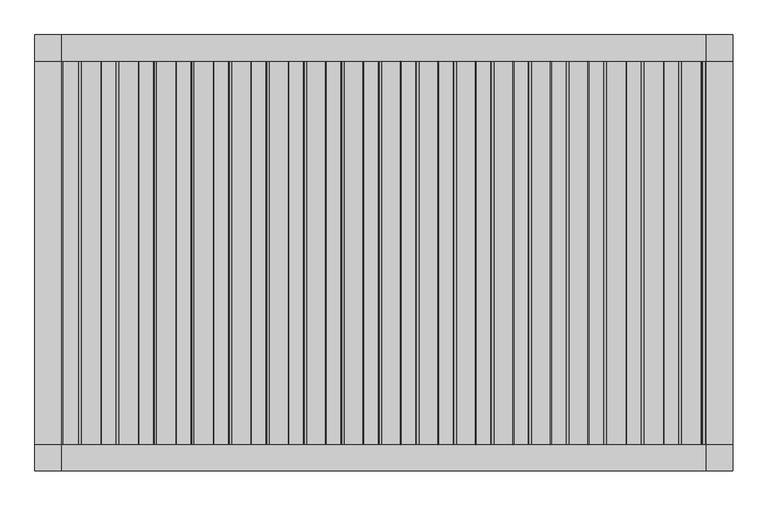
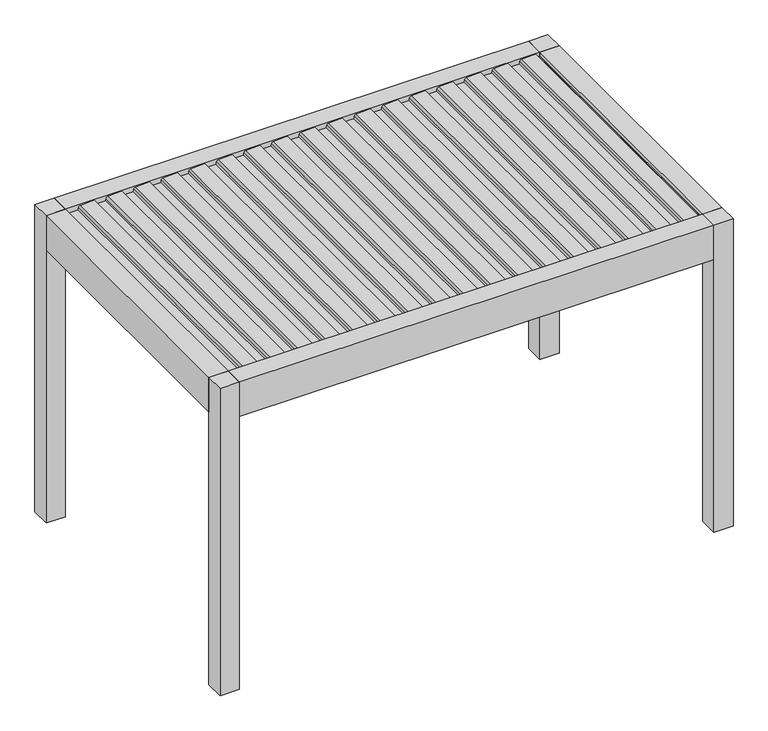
"""IFC4 building model written with IfcOpenShell, lengths in millimetres: proxy geometry, Renson_Amani_Patio_Cover : Renson_Amani_Patio_Cover."""

from ifc_helpers import new_model, si_unit, point, frame, frame_2d, origin, origin_with_axes, place, context, project, spatial, polyline, circle_curve, trimmed, segment, composite_curve, outline, extrude, source, transform, mapped, element, save


def generic_models_e44263f4(model_context):
    return source(origin(), model_context, "Body", "SweptSolid", [
        extrude(outline(composite_curve([segment(polyline([(2483.35, 1573.7338351), (2511.01198, 1576.1539448), (2512.3970364, 1604.9891952), (2531.8911096, 1601.5518641), (2526.6075693, 1491.5547493)]), True, "CONTINUOUS"), segment(trimmed(circle_curve(frame_2d((2511.6248435, 1492.2744212)), 15.0), [point((2526.6075693, 1491.5547493))], [point((2514.2295662, 1477.5023049))], False, "CARTESIAN"), True, "CONTINUOUS"), segment(polyline([(2514.2295662, 1477.5023049), (2495.0, 1474.1116136), (2495.0, 1386.3758376), (2512.0788237, 1383.3643801), (2511.3450182, 1368.0874097), (2483.35, 1365.6381629), (2483.35, 1573.7338351)]), True, "CONTINUOUS")], self_intersect=False)), frame((0.0, -1100.0, 0.0), z_axis=(0.0, 1.0, 0.0), x_axis=(0.0, 0.0, 1.0)), (0.0, 0.0, 1.0), 2200.0),
        extrude(outline(composite_curve([segment(polyline([(2483.35, 1358.7230303), (2511.01198, 1361.14314), (2512.3970364, 1389.9783904), (2531.8911096, 1386.5410594), (2526.6075693, 1276.5439445)]), True, "CONTINUOUS"), segment(trimmed(circle_curve(frame_2d((2511.6248435, 1277.2636164)), 15.0), [point((2526.6075693, 1276.5439445))], [point((2514.2295662, 1262.4915001))], False, "CARTESIAN"), True, "CONTINUOUS"), segment(polyline([(2514.2295662, 1262.4915001), (2495.0, 1259.1008088), (2495.0, 1171.3650328), (2512.0788237, 1168.3535754), (2511.3450182, 1153.0766049), (2483.35, 1150.6273582), (2483.35, 1358.7230303)]), True, "CONTINUOUS")], self_intersect=False)), frame((0.0, -1100.0, 0.0), z_axis=(0.0, 1.0, 0.0), x_axis=(0.0, 0.0, 1.0)), (0.0, 0.0, 1.0), 2200.0),
        extrude(outline(composite_curve([segment(polyline([(2483.35, 1143.7122255), (2511.01198, 1146.1323352), (2512.3970364, 1174.9675857), (2531.8911096, 1171.5302546), (2526.6075693, 1061.5331397)]), True, "CONTINUOUS"), segment(trimmed(circle_curve(frame_2d((2511.6248435, 1062.2528117)), 15.0), [point((2526.6075693, 1061.5331397))], [point((2514.2295662, 1047.4806954))], False, "CARTESIAN"), True, "CONTINUOUS"), segment(polyline([(2514.2295662, 1047.4806954), (2495.0, 1044.090004), (2495.0, 956.354228), (2512.0788237, 953.3427706), (2511.3450182, 938.0658001), (2483.35, 935.6165534), (2483.35, 1143.7122255)]), True, "CONTINUOUS")], self_intersect=False)), frame((0.0, -1100.0, 0.0), z_axis=(0.0, 1.0, 0.0), x_axis=(0.0, 0.0, 1.0)), (0.0, 0.0, 1.0), 2200.0),
        extrude(outline(composite_curve([segment(polyline([(2483.35, 928.7014208), (2511.01198, 931.1215304), (2512.3970364, 959.9567809), (2531.8911096, 956.5194498), (2526.6075693, 846.5223349)]), True, "CONTINUOUS"), segment(trimmed(circle_curve(frame_2d((2511.6248435, 847.2420069)), 15.0), [point((2526.6075693, 846.5223349))], [point((2514.2295662, 832.4698906))], False, "CARTESIAN"), True, "CONTINUOUS"), segment(polyline([(2514.2295662, 832.4698906), (2495.0, 829.0791992), (2495.0, 741.3434232), (2512.0788237, 738.3319658), (2511.3450182, 723.0549953), (2483.35, 720.6057486), (2483.35, 928.7014208)]), True, "CONTINUOUS")], self_intersect=False)), frame((0.0, -1100.0, 0.0), z_axis=(0.0, 1.0, 0.0), x_axis=(0.0, 0.0, 1.0)), (0.0, 0.0, 1.0), 2200.0),
        extrude(outline(composite_curve([segment(polyline([(2483.35, 713.690616), (2511.01198, 716.1107256), (2512.3970364, 744.9459761), (2531.8911096, 741.508645), (2526.6075693, 631.5115302)]), True, "CONTINUOUS"), segment(trimmed(circle_curve(frame_2d((2511.6248435, 632.2312021)), 15.0), [point((2526.6075693, 631.5115302))], [point((2514.2295662, 617.4590858))], False, "CARTESIAN"), True, "CONTINUOUS"), segment(polyline([(2514.2295662, 617.4590858), (2495.0, 614.0683945), (2495.0, 526.3326184), (2512.0788237, 523.321161), (2511.3450182, 508.0441905), (2483.35, 505.5949438), (2483.35, 713.690616)]), True, "CONTINUOUS")], self_intersect=False)), frame((0.0, -1100.0, 0.0), z_axis=(0.0, 1.0, 0.0), x_axis=(0.0, 0.0, 1.0)), (0.0, 0.0, 1.0), 2200.0),
        extrude(outline(composite_curve([segment(polyline([(2483.35, 498.6798112), (2511.01198, 501.0999209), (2512.3970364, 529.9351713), (2531.8911096, 526.4978402), (2526.6075693, 416.5007254)]), True, "CONTINUOUS"), segment(trimmed(circle_curve(frame_2d((2511.6248435, 417.2203973)), 15.0), [point((2526.6075693, 416.5007254))], [point((2514.2295662, 402.448281))], False, "CARTESIAN"), True, "CONTINUOUS"), segment(polyline([(2514.2295662, 402.448281), (2495.0, 399.0575897), (2495.0, 311.3218136), (2512.0788237, 308.3103562), (2511.3450182, 293.0333858), (2483.35, 290.584139), (2483.35, 498.6798112)]), True, "CONTINUOUS")], self_intersect=False)), frame((0.0, -1100.0, 0.0), z_axis=(0.0, 1.0, 0.0), x_axis=(0.0, 0.0, 1.0)), (0.0, 0.0, 1.0), 2200.0),
        extrude(outline(composite_curve([segment(polyline([(2483.35, 283.6690064), (2511.01198, 286.0891161), (2512.3970364, 314.9243665), (2531.8911096, 311.4870355), (2526.6075693, 201.4899206)]), True, "CONTINUOUS"), segment(trimmed(circle_curve(frame_2d((2511.6248435, 202.2095925)), 15.0), [point((2526.6075693, 201.4899206))], [point((2514.2295662, 187.4374762))], False, "CARTESIAN"), True, "CONTINUOUS"), segment(polyline([(2514.2295662, 187.4374762), (2495.0, 184.0467849), (2495.0, 96.3110089), (2512.0788237, 93.2995515), (2511.3450182, 78.022581), (2483.35, 75.5733343), (2483.35, 283.6690064)]), True, "CONTINUOUS")], self_intersect=False)), frame((0.0, -1100.0, 0.0), z_axis=(0.0, 1.0, 0.0), x_axis=(0.0, 0.0, 1.0)), (0.0, 0.0, 1.0), 2200.0),
        extrude(outline(composite_curve([segment(polyline([(2483.35, 68.6582016), (2511.01198, 71.0783113), (2512.3970364, 99.9135617), (2531.8911096, 96.4762307), (2526.6075693, -13.5208842)]), True, "CONTINUOUS"), segment(trimmed(circle_curve(frame_2d((2511.6248435, -12.8012122)), 15.0), [point((2526.6075693, -13.5208842))], [point((2514.2295662, -27.5733285))], False, "CARTESIAN"), True, "CONTINUOUS"), segment(polyline([(2514.2295662, -27.5733285), (2495.0, -30.9640199), (2495.0, -118.6997959), (2512.0788237, -121.7112533), (2511.3450182, -136.9882238), (2483.35, -139.4374705), (2483.35, 68.6582016)]), True, "CONTINUOUS")], self_intersect=False)), frame((0.0, -1100.0, 0.0), z_axis=(0.0, 1.0, 0.0), x_axis=(0.0, 0.0, 1.0)), (0.0, 0.0, 1.0), 2200.0),
        extrude(outline(composite_curve([segment(polyline([(2483.35, -146.3526032), (2511.01198, -143.9324935), (2512.3970364, -115.097243), (2531.8911096, -118.5345741), (2526.6075693, -228.531689)]), True, "CONTINUOUS"), segment(trimmed(circle_curve(frame_2d((2511.6248435, -227.812017)), 15.0), [point((2526.6075693, -228.531689))], [point((2514.2295662, -242.5841333))], False, "CARTESIAN"), True, "CONTINUOUS"), segment(polyline([(2514.2295662, -242.5841333), (2495.0, -245.9748247), (2495.0, -333.7106007), (2512.0788237, -336.7220581), (2511.3450182, -351.9990286), (2483.35, -354.4482753), (2483.35, -146.3526032)]), True, "CONTINUOUS")], self_intersect=False)), frame((0.0, -1100.0, 0.0), z_axis=(0.0, 1.0, 0.0), x_axis=(0.0, 0.0, 1.0)), (0.0, 0.0, 1.0), 2200.0),
        extrude(outline(composite_curve([segment(polyline([(2483.35, -361.3634079), (2511.01198, -358.9432983), (2512.3970364, -330.1080478), (2531.8911096, -333.5453789), (2526.6075693, -443.5424937)]), True, "CONTINUOUS"), segment(trimmed(circle_curve(frame_2d((2511.6248435, -442.8228218)), 15.0), [point((2526.6075693, -443.5424937))], [point((2514.2295662, -457.5949381))], False, "CARTESIAN"), True, "CONTINUOUS"), segment(polyline([(2514.2295662, -457.5949381), (2495.0, -460.9856294), (2495.0, -548.7214055), (2512.0788237, -551.7328629), (2511.3450182, -567.0098334), (2483.35, -569.4590801), (2483.35, -361.3634079)]), True, "CONTINUOUS")], self_intersect=False)), frame((0.0, -1100.0, 0.0), z_axis=(0.0, 1.0, 0.0), x_axis=(0.0, 0.0, 1.0)), (0.0, 0.0, 1.0), 2200.0),
        extrude(outline(composite_curve([segment(polyline([(2483.35, -576.3742127), (2511.01198, -573.9541031), (2512.3970364, -545.1188526), (2531.8911096, -548.5561837), (2526.6075693, -658.5532985)]), True, "CONTINUOUS"), segment(trimmed(circle_curve(frame_2d((2511.6248435, -657.8336266)), 15.0), [point((2526.6075693, -658.5532985))], [point((2514.2295662, -672.6057429))], False, "CARTESIAN"), True, "CONTINUOUS"), segment(polyline([(2514.2295662, -672.6057429), (2495.0, -675.9964342), (2495.0, -763.7322103), (2512.0788237, -766.7436677), (2511.3450182, -782.0206381), (2483.35, -784.4698849), (2483.35, -576.3742127)]), True, "CONTINUOUS")], self_intersect=False)), frame((0.0, -1100.0, 0.0), z_axis=(0.0, 1.0, 0.0), x_axis=(0.0, 0.0, 1.0)), (0.0, 0.0, 1.0), 2200.0),
        extrude(outline(composite_curve([segment(polyline([(2483.35, -791.3850175), (2511.01198, -788.9649078), (2512.3970364, -760.1296574), (2531.8911096, -763.5669885), (2526.6075693, -873.5641033)]), True, "CONTINUOUS"), segment(trimmed(circle_curve(frame_2d((2511.6248435, -872.8444314)), 15.0), [point((2526.6075693, -873.5641033))], [point((2514.2295662, -887.6165477))], False, "CARTESIAN"), True, "CONTINUOUS"), segment(polyline([(2514.2295662, -887.6165477), (2495.0, -891.007239), (2495.0, -978.743015), (2512.0788237, -981.7544725), (2511.3450182, -997.0314429), (2483.35, -999.4806897), (2483.35, -791.3850175)]), True, "CONTINUOUS")], self_intersect=False)), frame((0.0, -1100.0, 0.0), z_axis=(0.0, 1.0, 0.0), x_axis=(0.0, 0.0, 1.0)), (0.0, 0.0, 1.0), 2200.0),
        extrude(outline(composite_curve([segment(polyline([(2483.35, -1006.3958223), (2511.01198, -1003.9757126), (2512.3970364, -975.1404622), (2531.8911096, -978.5777932), (2526.6075693, -1088.5749081)]), True, "CONTINUOUS"), segment(trimmed(circle_curve(frame_2d((2511.6248435, -1087.8552362)), 15.0), [point((2526.6075693, -1088.5749081))], [point((2514.2295662, -1102.6273525))], False, "CARTESIAN"), True, "CONTINUOUS"), segment(polyline([(2514.2295662, -1102.6273525), (2495.0, -1106.0180438), (2495.0, -1193.7538198), (2512.0788237, -1196.7652772), (2511.3450182, -1212.0422477), (2483.35, -1214.4914944), (2483.35, -1006.3958223)]), True, "CONTINUOUS")], self_intersect=False)), frame((0.0, -1100.0, 0.0), z_axis=(0.0, 1.0, 0.0), x_axis=(0.0, 0.0, 1.0)), (0.0, 0.0, 1.0), 2200.0),
        extrude(outline(composite_curve([segment(polyline([(2483.35, -1221.4066271), (2511.01198, -1218.9865174), (2512.3970364, -1190.1512669), (2531.8911096, -1193.588598), (2526.6075693, -1303.5857129)]), True, "CONTINUOUS"), segment(trimmed(circle_curve(frame_2d((2511.6248435, -1302.8660409)), 15.0), [point((2526.6075693, -1303.5857129))], [point((2514.2295662, -1317.6381572))], False, "CARTESIAN"), True, "CONTINUOUS"), segment(polyline([(2514.2295662, -1317.6381572), (2495.0, -1321.0288486), (2495.0, -1408.7646246), (2512.0788237, -1411.776082), (2511.3450182, -1427.0530525), (2483.35, -1429.5022992), (2483.35, -1221.4066271)]), True, "CONTINUOUS")], self_intersect=False)), frame((0.0, -1100.0, 0.0), z_axis=(0.0, 1.0, 0.0), x_axis=(0.0, 0.0, 1.0)), (0.0, 0.0, 1.0), 2200.0),
        extrude(outline(composite_curve([segment(polyline([(2483.35, -1436.4174318), (2511.01198, -1433.9973222), (2512.3970364, -1405.1620717), (2531.8911096, -1408.5994028), (2526.6075693, -1518.5965176)]), True, "CONTINUOUS"), segment(trimmed(circle_curve(frame_2d((2511.6248435, -1517.8768457)), 15.0), [point((2526.6075693, -1518.5965176))], [point((2514.2295662, -1532.648962))], False, "CARTESIAN"), True, "CONTINUOUS"), segment(polyline([(2514.2295662, -1532.648962), (2495.0, -1536.0396534), (2495.0, -1623.7754294), (2512.0788237, -1626.7868868), (2511.3450182, -1642.0638573), (2483.35, -1644.513104), (2483.35, -1436.4174318)]), True, "CONTINUOUS")], self_intersect=False)), frame((0.0, -1100.0, 0.0), z_axis=(0.0, 1.0, 0.0), x_axis=(0.0, 0.0, 1.0)), (0.0, 0.0, 1.0), 2200.0),
        extrude(outline(composite_curve([segment(polyline([(2483.35, 1788.7446399), (2511.01198, 1791.1647495), (2512.3970364, 1820.0), (2531.8911096, 1816.5626689), (2526.6075693, 1706.5655541)]), True, "CONTINUOUS"), segment(trimmed(circle_curve(frame_2d((2511.6248435, 1707.285226)), 15.0), [point((2526.6075693, 1706.5655541))], [point((2514.2295662, 1692.5131097))], False, "CARTESIAN"), True, "CONTINUOUS"), segment(polyline([(2514.2295662, 1692.5131097), (2495.0, 1689.1224184), (2495.0, 1601.3866423), (2512.0788237, 1598.3751849), (2511.3450182, 1583.0982144), (2483.35, 1580.6489677), (2483.35, 1788.7446399)]), True, "CONTINUOUS")], self_intersect=False)), frame((0.0, -1100.0, 0.0), z_axis=(0.0, 1.0, 0.0), x_axis=(0.0, 0.0, 1.0)), (0.0, 0.0, 1.0), 2200.0),
        extrude(outline(composite_curve([segment(polyline([(2483.35, -1651.4282366), (2511.01198, -1649.008127), (2512.3970364, -1620.1728765), (2531.8911096, -1623.6102076), (2526.6075693, -1733.6073224)]), True, "CONTINUOUS"), segment(trimmed(circle_curve(frame_2d((2511.6248435, -1732.8876505)), 15.0), [point((2526.6075693, -1733.6073224))], [point((2514.2295662, -1747.6597668))], False, "CARTESIAN"), True, "CONTINUOUS"), segment(polyline([(2514.2295662, -1747.6597668), (2495.0, -1751.0504581), (2495.0, -1838.7862342), (2512.0788237, -1841.7976916), (2511.3450182, -1857.0746621), (2483.35, -1859.5239088), (2483.35, -1651.4282366)]), True, "CONTINUOUS")], self_intersect=False)), frame((0.0, -1100.0, 0.0), z_axis=(0.0, 1.0, 0.0), x_axis=(0.0, 0.0, 1.0)), (0.0, 0.0, 1.0), 2200.0),
        extrude(outline(polyline([(2000.0, -1100.0), (2000.0, -1250.0), (1850.0, -1250.0), (1850.0, -1100.0), (2000.0, -1100.0)])), origin_with_axes(), (0.0, 0.0, 1.0), 2535.0),
        extrude(outline(polyline([(2000.0, 1250.0), (2000.0, 1100.0), (1850.0, 1100.0), (1850.0, 1250.0), (2000.0, 1250.0)])), origin_with_axes(), (0.0, 0.0, 1.0), 2535.0),
        extrude(outline(polyline([(-1850.0, 1100.0), (-2000.0, 1100.0), (-2000.0, 1250.0), (-1850.0, 1250.0), (-1850.0, 1100.0)])), origin_with_axes(), (0.0, 0.0, 1.0), 2535.0),
        extrude(outline(polyline([(-1850.0, -1100.0), (-1850.0, -1250.0), (-2000.0, -1250.0), (-2000.0, -1100.0), (-1850.0, -1100.0)])), origin_with_axes(), (0.0, 0.0, 1.0), 2535.0),
        extrude(outline(polyline([(2466.6559373, -1850.0), (2466.6559373, -1824.0), (2480.6555802, -1820.2487113), (2480.6555802, -1829.5940945), (2496.400763, -1845.0), (2504.2449277, -1845.0), (2504.6823598, -1850.0), (2466.6559373, -1850.0)])), frame((0.0, -1100.0, 0.0), z_axis=(0.0, 1.0, 0.0), x_axis=(0.0, 0.0, 1.0)), (0.0, 0.0, 1.0), 2200.0),
        extrude(outline(polyline([(-1850.0, -1100.0), (-2000.0, -1100.0), (-2000.0, 1100.0), (-1850.0, 1100.0), (-1850.0, -1100.0)])), frame((0.0, 0.0, 2250.0), z_axis=(0.0, 0.0, 1.0), x_axis=(1.0, 0.0, 0.0)), (0.0, 0.0, 1.0), 285.0),
        extrude(outline(polyline([(2535.0, 2000.0), (2535.0, 1850.0), (2504.6904658, 1850.0), (2504.2449277, 1845.0), (2496.400763, 1845.0), (2480.6555802, 1829.2544156), (2480.6555802, 1819.9090324), (2466.6559373, 1823.6603211), (2466.6559373, 1850.0), (2250.0, 1850.0), (2250.0, 2000.0), (2535.0, 2000.0)])), frame((0.0, -1100.0, 0.0), z_axis=(0.0, 1.0, 0.0), x_axis=(0.0, 0.0, 1.0)), (0.0, 0.0, 1.0), 2200.0),
        extrude(outline(polyline([(-1100.0, 2535.0), (-1100.0, 2322.0), (-1030.0000001, 2322.0), (-1030.0000001, 2250.0), (-1250.0, 2250.0), (-1250.0, 2535.0), (-1100.0, 2535.0)])), frame((-1850.0, 0.0, 0.0), z_axis=(1.0, 0.0, 0.0), x_axis=(0.0, 1.0, 0.0)), (0.0, 0.0, 1.0), 3700.0),
        extrude(outline(polyline([(1250.0, 2250.0), (1030.0000001, 2250.0), (1030.0000001, 2322.0), (1100.0, 2322.0), (1100.0, 2535.0), (1250.0, 2535.0), (1250.0, 2250.0)])), frame((-1850.0, 0.0, 0.0), z_axis=(1.0, 0.0, 0.0), x_axis=(0.0, 1.0, 0.0)), (0.0, 0.0, 1.0), 3700.0),
    ])


if __name__ == "__main__":
    model = new_model("IFC4")
    model_context = context("Model", 3, world=origin())
    ifc_project = project(units=[si_unit("LENGTHUNIT", "METRE", prefix="MILLI")], contexts=[model_context])
    site = spatial("IfcSite", under=ifc_project)
    building = spatial("IfcBuilding", under=site)
    placement = place(None, origin())
    generic_models_shape = generic_models_e44263f4(model_context)
    element("IfcBuildingElementProxy", 1, Name="Renson_Amani_Patio_Cover : Renson_Amani_Patio_Cover", ObjectType="Renson_Amani_Patio_Cover : Renson_Amani_Patio_Cover", at=placement, inside=building, context=model_context, shape_type="MappedRepresentation", body=[
        mapped(generic_models_shape, transform((0.0, 0.0, 0.0), x_axis=(1.0, 0.0, 0.0), y_axis=(0.0, 1.0, 0.0), z_axis=(0.0, 0.0, 1.0))),
    ])
    save(model, "model.ifc")
